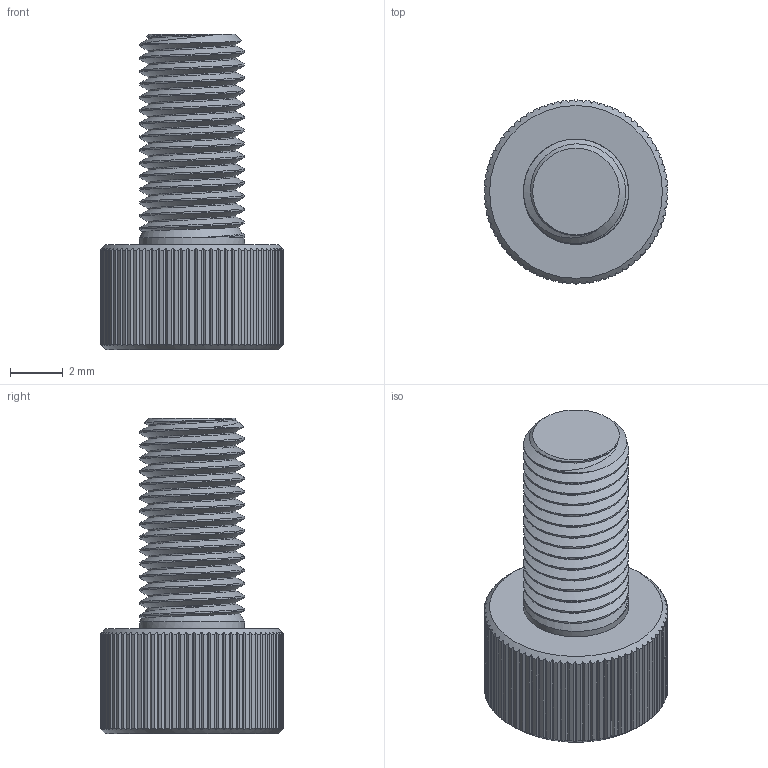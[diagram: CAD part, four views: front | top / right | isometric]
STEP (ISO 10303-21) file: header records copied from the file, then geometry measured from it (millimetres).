
FILE_DESCRIPTION(/* description */ ('STEP AP242 Edition 2','CAx-IF Rec.Pracs.---Representation and Presentation of Product Manufacturing Information (PMI)---4.0---2014-10-13','CAx-IF Rec.Pracs.---3D Tessellated Geometry---0.4---2014-09-14','2;1','CAx-IF Rec.Pracs.---User Defined Attributes---1.5---2016-08-15'),/* implementation_level */ '2;1');
FILE_NAME(/* name */ 'Main - M4 8mm (4)',/* time_stamp */ '2026-09-13T15:50:01Z',/* author */ (''),/* organization */ (''),/* preprocessor_version */ 'ST-DEVELOPER v20',/* originating_system */ 'ONSHAPE BY PTC INC, 1.220',/* authorisation */ ' ');
FILE_SCHEMA (('AP242_MANAGED_MODEL_BASED_3D_ENGINEERING_MIM_LF { 1 0 10303 442 3 1 4 }'));
Length unit declared in the file: metre
Products named in the file (1): M4 8mm
Bounding box: 7 x 7 x 12 mm (x, y, z)
Volume: 219.8 mm3; surface area: 350.3 mm2
Topology: 1 solids, 1 shells, 263 faces, 764 edges, 505 vertices
Faces by surface type: plane 160, cylinder 90, cone 10, bspline 3
Full cylindrical faces by diameter (mm): 4 x14
Entity records: 10959 total; most frequent: CARTESIAN_POINT 3990, DIRECTION 1655, ORIENTED_EDGE 1430, EDGE_CURVE 715, AXIS2_PLACEMENT_3D 709, VERTEX_POINT 474, CIRCLE 462, EDGE_LOOP 255
